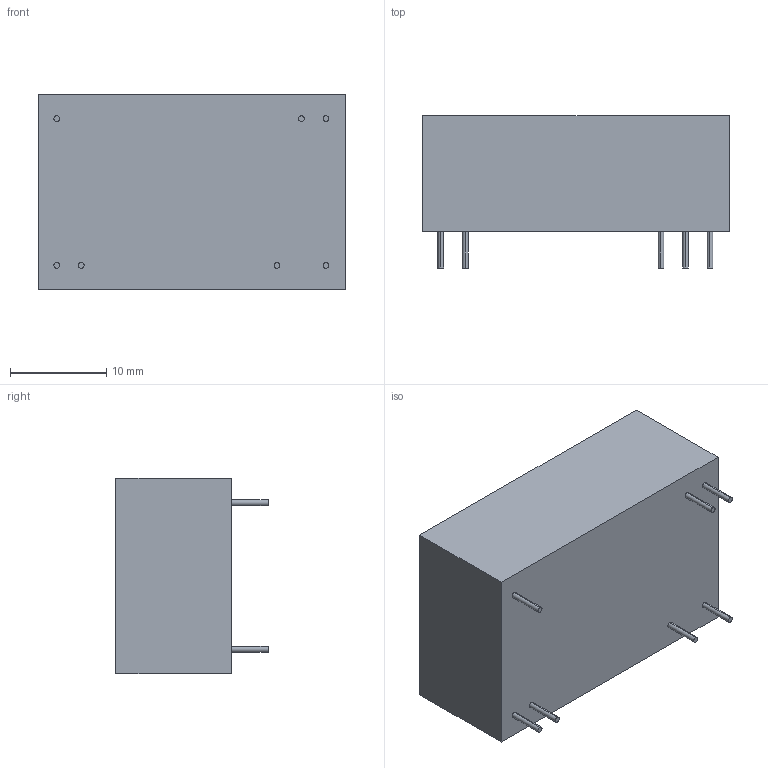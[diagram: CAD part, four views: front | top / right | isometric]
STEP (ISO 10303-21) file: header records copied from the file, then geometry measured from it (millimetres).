
FILE_DESCRIPTION (( 'STEP AP203' ), '1' );
FILE_NAME ('TRI 3 Dual Output.STEP', '2020-11-13T08:07:36', ( '' ), ( '' ), 'SwSTEP 2.0', 'SolidWorks 2020', '' );
FILE_SCHEMA (( 'CONFIG_CONTROL_DESIGN' ));
Length unit declared in the file: millimetre
Products named in the file (1): TRI 3 Dual Output
Bounding box: 31.8 x 15.8 x 20.3 mm (x, y, z)
Volume: 7754 mm3; surface area: 2591.6 mm2
Topology: 1 solids, 1 shells, 27 faces, 54 edges, 36 vertices
Faces by surface type: cylinder 14, plane 13
Entity records: 793 total; most frequent: DIRECTION 138, CARTESIAN_POINT 118, ORIENTED_EDGE 108, AXIS2_PLACEMENT_3D 56, EDGE_CURVE 54, VERTEX_POINT 36, EDGE_LOOP 34, CIRCLE 28
